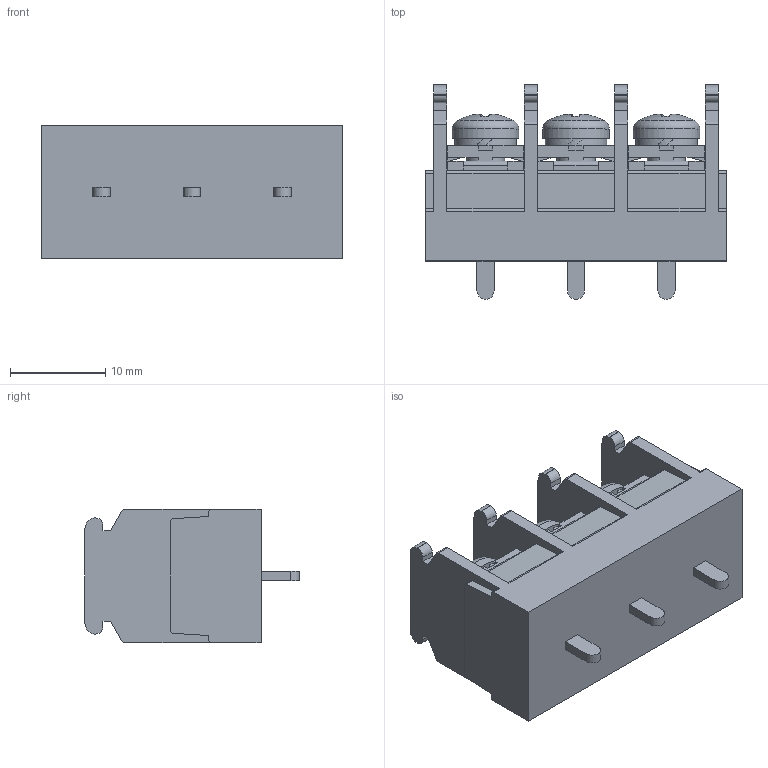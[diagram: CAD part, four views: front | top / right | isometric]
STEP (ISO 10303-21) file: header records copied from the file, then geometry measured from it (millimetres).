
FILE_DESCRIPTION(/* description */ ('Alibre Inc.'),/* implementation_level */ '2;1');
FILE_NAME(/* name */ 'export-E1FD669B-9737-4A43-BDB8-38C55E540E48',/* time_stamp */ '2021-02-13T13:57:02+09:00',/* author */ (''),/* organization */ (''),/* preprocessor_version */ 'ST-DEVELOPER v17',/* originating_system */ 'Alibre',/* authorisation */ '');
FILE_SCHEMA (('CONFIG_CONTROL_DESIGN'));
Length unit declared in the file: millimetre
Bounding box: 31.7 x 22.5 x 14 mm (x, y, z)
Volume: 5396.3 mm3; surface area: 3860.6 mm2
Topology: 1 solids, 20 shells, 762 faces, 2085 edges, 1377 vertices
Faces by surface type: plane 558, bspline 104, cylinder 76, cone 15, torus 6, sphere 3
Full cylindrical faces by diameter (mm): 4 x6, 7 x3
Entity records: 23146 total; most frequent: CARTESIAN_POINT 5148, ORIENTED_EDGE 4122, DIRECTION 2757, EDGE_CURVE 2061, VECTOR 1535, LINE 1535, VERTEX_POINT 1371, AXIS2_PLACEMENT_3D 874
